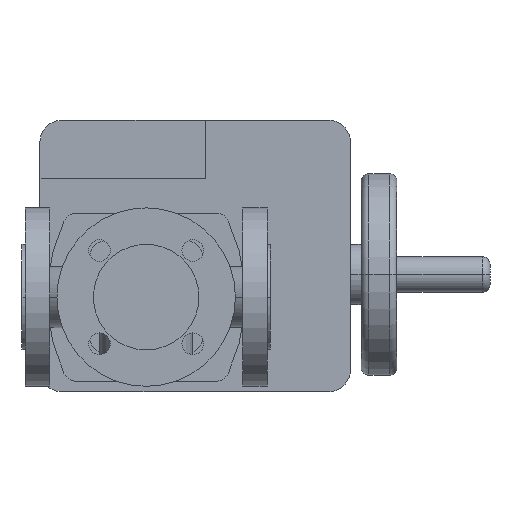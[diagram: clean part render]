
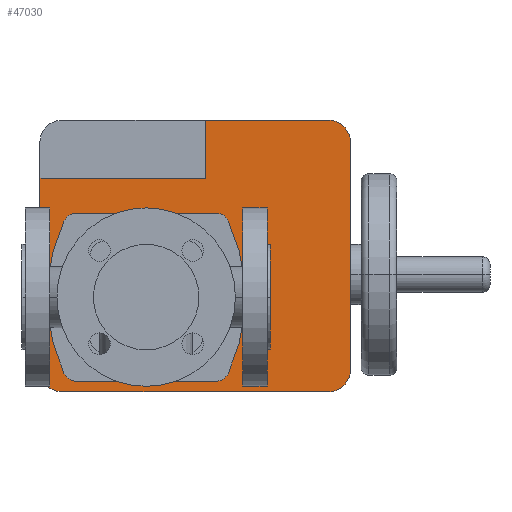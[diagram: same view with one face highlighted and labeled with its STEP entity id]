
A CAD part, front view. The second image highlights one B-rep face of the part: STEP entity #47030.
In plain terms, the highlighted planar face has unit normal (0, -1, 0).
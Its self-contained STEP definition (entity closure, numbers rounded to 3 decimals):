
#42080=CARTESIAN_POINT('',(11.6,384.,-47.));
#42090=VERTEX_POINT('',#42080);
#42140=CARTESIAN_POINT('',(25.6,384.,-47.));
#42150=DIRECTION('',(0.,1.,0.));
#42160=DIRECTION('',(0.,0.,-1.));
#42170=AXIS2_PLACEMENT_3D('',#42140,#42150,#42160);
#42180=CIRCLE('',#42170,14.);
#42190=CARTESIAN_POINT('',(25.6,384.,-61.));
#42200=VERTEX_POINT('',#42190);
#42210=EDGE_CURVE('',#42200,#42090,#42180,.T.);
#45590=CARTESIAN_POINT('',(80.,384.,0.));
#45600=DIRECTION('',(0.,1.,0.));
#45610=DIRECTION('',(0.,0.,1.));
#45620=AXIS2_PLACEMENT_3D('',#45590,#45600,#45610);
#45630=PLANE('',#45620);
#45640=CARTESIAN_POINT('',(132.2,384.,0.));
#45650=DIRECTION('',(0.,1.,0.));
#45660=DIRECTION('',(-0.906,0.,-0.422));
#45670=AXIS2_PLACEMENT_3D('',#45640,#45650,#45660);
#45680=CIRCLE('',#45670,116.);
#45690=CARTESIAN_POINT('',(27.058,384.,-49.002));
#45700=VERTEX_POINT('',#45690);
#45710=CARTESIAN_POINT('',(27.058,384.,49.002));
#45720=VERTEX_POINT('',#45710);
#45730=EDGE_CURVE('',#45700,#45720,#45680,.T.);
#45740=ORIENTED_EDGE('',*,*,#45730,.T.);
#45750=CARTESIAN_POINT('',(35.216,384.,-45.2));
#45760=DIRECTION('',(0.,1.,0.));
#45770=DIRECTION('',(0.,0.,-1.));
#45780=AXIS2_PLACEMENT_3D('',#45750,#45760,#45770);
#45790=CIRCLE('',#45780,9.);
#45800=CARTESIAN_POINT('',(35.216,384.,-54.2));
#45810=VERTEX_POINT('',#45800);
#45820=EDGE_CURVE('',#45810,#45700,#45790,.T.);
#45830=ORIENTED_EDGE('',*,*,#45820,.T.);
#45840=CARTESIAN_POINT('',(102.392,384.,-54.2));
#45850=DIRECTION('',(-1.,0.,0.));
#45860=VECTOR('',#45850,1.);
#45870=LINE('',#45840,#45860);
#45880=CARTESIAN_POINT('',(124.784,384.,-54.2));
#45890=VERTEX_POINT('',#45880);
#45900=EDGE_CURVE('',#45890,#45810,#45870,.T.);
#45910=ORIENTED_EDGE('',*,*,#45900,.T.);
#45920=CARTESIAN_POINT('',(124.784,384.,-45.2));
#45930=DIRECTION('',(0.,1.,0.));
#45940=DIRECTION('',(0.906,0.,-0.422));
#45950=AXIS2_PLACEMENT_3D('',#45920,#45930,#45940);
#45960=CIRCLE('',#45950,9.);
#45970=CARTESIAN_POINT('',(132.942,384.,-49.002));
#45980=VERTEX_POINT('',#45970);
#45990=EDGE_CURVE('',#45980,#45890,#45960,.T.);
#46000=ORIENTED_EDGE('',*,*,#45990,.T.);
#46010=CARTESIAN_POINT('',(27.8,384.,0.))
;
#46020=DIRECTION('',(0.,1.,0.));
#46030=DIRECTION('',(0.906,0.,0.422));
#46040=AXIS2_PLACEMENT_3D('',#46010,#46020,#46030);
#46050=CIRCLE('',#46040,116.);
#46060=CARTESIAN_POINT('',(132.942,384.,49.002));
#46070=VERTEX_POINT('',#46060);
#46080=EDGE_CURVE('',#46070,#45980,#46050,.T.);
#46090=ORIENTED_EDGE('',*,*,#46080,.T.);
#46100=CARTESIAN_POINT('',(124.784,384.,45.2));
#46110=DIRECTION('',(0.,1.,0.));
#46120=DIRECTION('',(0.,0.,1.));
#46130=AXIS2_PLACEMENT_3D('',#46100,#46110,#46120);
#46140=CIRCLE('',#46130,9.);
#46150=CARTESIAN_POINT('',(124.784,384.,54.2));
#46160=VERTEX_POINT('',#46150);
#46170=EDGE_CURVE('',#46160,#46070,#46140,.T.);
#46180=ORIENTED_EDGE('',*,*,#46170,.T.);
#46190=CARTESIAN_POINT('',(57.608,384.,54.2));
#46200=DIRECTION('',(1.,0.,0.));
#46210=VECTOR('',#46200,1.);
#46220=LINE('',#46190,#46210);
#46230=CARTESIAN_POINT('',(35.216,384.,54.2));
#46240=VERTEX_POINT('',#46230);
#46250=EDGE_CURVE('',#46240,#46160,#46220,.T.);
#46260=ORIENTED_EDGE('',*,*,#46250,.T.);
#46270=CARTESIAN_POINT('',(35.216,384.,45.2));
#46280=DIRECTION('',(0.,1.,0.));
#46290=DIRECTION('',(-0.906,0.,0.422));
#46300=AXIS2_PLACEMENT_3D('',#46270,#46280,#46290);
#46310=CIRCLE('',#46300,9.);
#46320=EDGE_CURVE('',#45720,#46240,#46310,.T.);
#46330=ORIENTED_EDGE('',*,*,#46320,.T.);
#46340=EDGE_LOOP('',(#46330,#46260,#46180,#46090,#46000,#45910,#45830,
#45740));
#46350=FACE_BOUND('',#46340,.T.);
#46360=CARTESIAN_POINT('',(118.1,384.,38.25));
#46370=DIRECTION('',(0.,0.,-1.));
#46380=VECTOR('',#46370,1.);
#46390=LINE('',#46360,#46380);
#46400=CARTESIAN_POINT('',(118.1,384.,114.));
#46410=VERTEX_POINT('',#46400);
#46420=CARTESIAN_POINT('',(118.1,384.,76.5));
#46430=VERTEX_POINT('',#46420);
#46440=EDGE_CURVE('',#46410,#46430,#46390,.T.);
#46450=ORIENTED_EDGE('',*,*,#46440,.T.);
#46460=CARTESIAN_POINT('',(25.6,384.,114.));
#46470=DIRECTION('',(1.,0.,0.));
#46480=VECTOR('',#46470,1.);
#46490=LINE('',#46460,#46480);
#46500=CARTESIAN_POINT('',(197.6,384.,114.));
#46510=VERTEX_POINT('',#46500);
#46520=EDGE_CURVE('',#46410,#46510,#46490,.T.);
#46530=ORIENTED_EDGE('',*,*,#46520,.F.);
#46540=CARTESIAN_POINT('',(197.6,384.,100.));
#46550=DIRECTION('',(0.,1.,0.));
#46560=DIRECTION('',(0.,0.,1.));
#46570=AXIS2_PLACEMENT_3D('',#46540,#46550,#46560);
#46580=CIRCLE('',#46570,14.);
#46590=CARTESIAN_POINT('',(211.6,384.,100.));
#46600=VERTEX_POINT('',#46590);
#46610=EDGE_CURVE('',#46510,#46600,#46580,.T.);
#46620=ORIENTED_EDGE('',*,*,#46610,.F.);
#46630=CARTESIAN_POINT('',(211.6,384.,100.));
#46640=DIRECTION('',(0.,0.,-1.));
#46650=VECTOR('',#46640,1.);
#46660=LINE('',#46630,#46650);
#46670=CARTESIAN_POINT('',(211.6,384.,-47.));
#46680=VERTEX_POINT('',#46670);
#46690=EDGE_CURVE('',#46600,#46680,#46660,.T.);
#46700=ORIENTED_EDGE('',*,*,#46690,.F.);
#46710=CARTESIAN_POINT('',(197.6,384.,-47.));
#46720=DIRECTION('',(0.,1.,0.));
#46730=DIRECTION('',(1.,0.,0.));
#46740=AXIS2_PLACEMENT_3D('',#46710,#46720,#46730);
#46750=CIRCLE('',#46740,14.);
#46760=CARTESIAN_POINT('',(197.6,384.,-61.));
#46770=VERTEX_POINT('',#46760);
#46780=EDGE_CURVE('',#46680,#46770,#46750,.T.);
#46790=ORIENTED_EDGE('',*,*,#46780,.F.);
#46800=CARTESIAN_POINT('',(197.6,384.,-61.));
#46810=DIRECTION('',(-1.,0.,0.));
#46820=VECTOR('',#46810,1.);
#46830=LINE('',#46800,#46820);
#46840=EDGE_CURVE('',#46770,#42200,#46830,.T.);
#46850=ORIENTED_EDGE('',*,*,#46840,.F.);
#46860=ORIENTED_EDGE('',*,*,#42210,.F.);
#46870=CARTESIAN_POINT('',(11.6,384.,-47.));
#46880=DIRECTION('',(0.,0.,1.));
#46890=VECTOR('',#46880,1.);
#46900=LINE('',#46870,#46890);
#46910=CARTESIAN_POINT('',(11.6,384.,76.5));
#46920=VERTEX_POINT('',#46910);
#46930=EDGE_CURVE('',#42090,#46920,#46900,.T.);
#46940=ORIENTED_EDGE('',*,*,#46930,.F.);
#46950=CARTESIAN_POINT('',(45.3,384.,76.5));
#46960=DIRECTION('',(-1.,0.,0.));
#46970=VECTOR('',#46960,1.);
#46980=LINE('',#46950,#46970);
#46990=EDGE_CURVE('',#46430,#46920,#46980,.T.);
#47000=ORIENTED_EDGE('',*,*,#46990,.T.);
#47010=EDGE_LOOP('',(#47000,#46940,#46860,#46850,#46790,#46700,#46620,
#46530,#46450));
#47020=FACE_OUTER_BOUND('',#47010,.T.);
#47030=ADVANCED_FACE('',(#46350,#47020),#45630,.F.);
